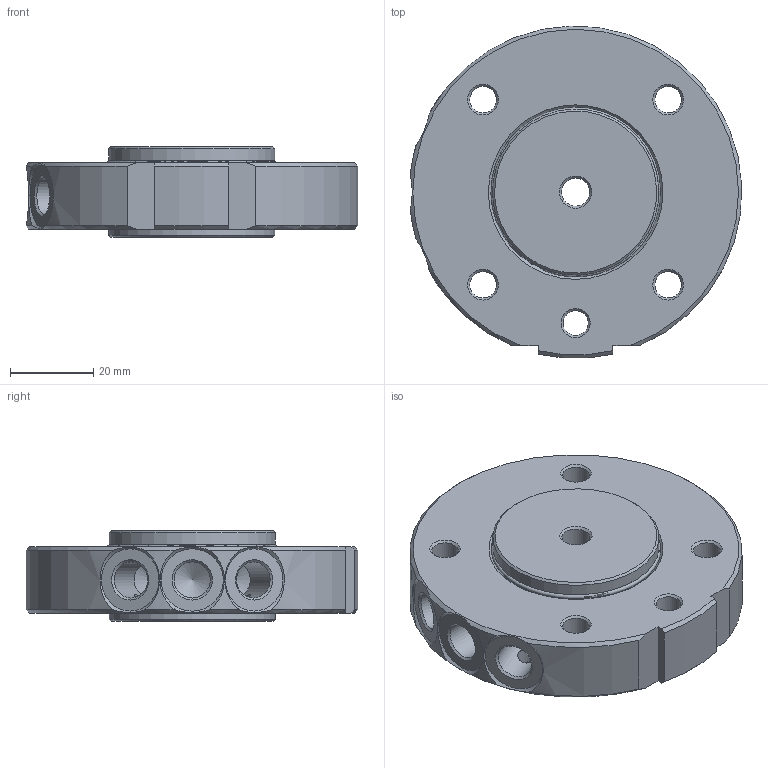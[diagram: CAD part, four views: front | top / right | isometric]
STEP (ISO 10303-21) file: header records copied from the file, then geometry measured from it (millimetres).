
FILE_DESCRIPTION(/* description */ (''),/* implementation_level */ '2;1');
FILE_NAME(/* name */ 'G-ZS080-S3P_Rev.1.01.stp',/* time_stamp */ '2024-08-29T15:22:47+02:00',/* author */ ('ysplieth'),/* organization */ (''),/* preprocessor_version */ 'ST-DEVELOPER v20',/* originating_system */ 'Autodesk Inventor 2024',/* authorisation */ '');
FILE_SCHEMA (('AUTOMOTIVE_DESIGN { 1 0 10303 214 3 1 1 }'));
Length unit declared in the file: millimetre
Products named in the file (1): Bauteil3
Bounding box: 79.75 x 79.86 x 21.9 mm (x, y, z)
Volume: 72582.4 mm3; surface area: 20266.8 mm2
Topology: 2 solids, 2 shells, 76 faces, 190 edges, 123 vertices
Faces by surface type: cone 34, cylinder 24, plane 16, torus 2
Full cylindrical faces by diameter (mm): 5 x3, 6 x1, 6.4 x4, 6.75 x1, 8.7 x3, 28 x1, 38.8 x2, 40 x4
Entity records: 2656 total; most frequent: CARTESIAN_POINT 647, DIRECTION 407, ORIENTED_EDGE 374, EDGE_CURVE 187, AXIS2_PLACEMENT_3D 172, VERTEX_POINT 123, EDGE_LOOP 104, CIRCLE 95
